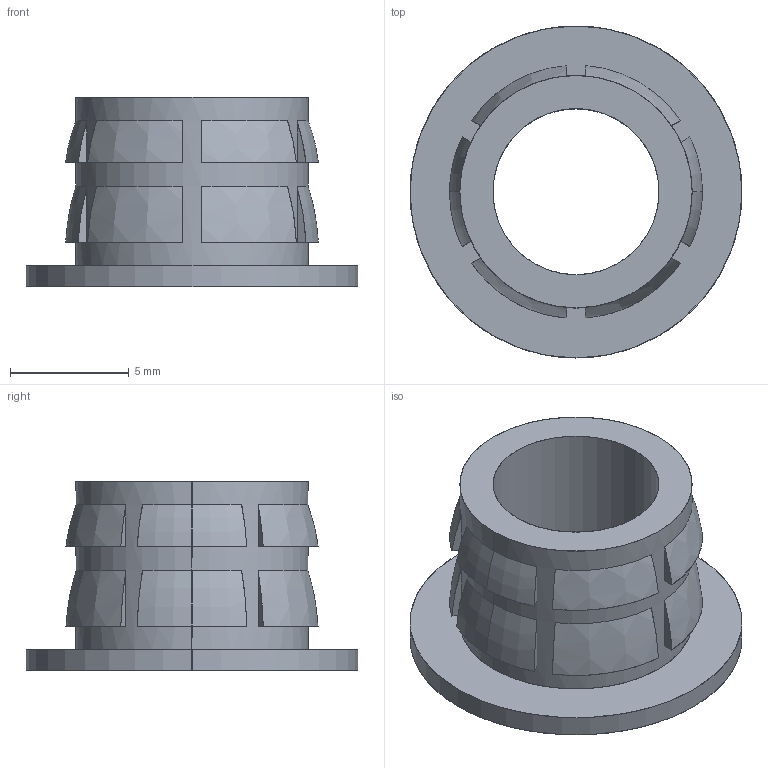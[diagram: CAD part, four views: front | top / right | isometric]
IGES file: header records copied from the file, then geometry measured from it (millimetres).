
Start section: SolidWorks IGES file using analytic representation for surfaces
Global section: file name: G:\thermofab project\INSERT\insert project\INSERT 3D\flanged insert M8 S1.IGS; native system: SolidWorks 2015; preprocessor: SolidWorks 2015; author: Administrator; date: 170809.191838; units: millimetre
Bounding box: 14 x 14 x 8 mm (x, y, z)
Surface area: 699.2 mm2 (no closed solid volume)
Topology: 0 solids, 0 shells, 63 faces, 568 edges, 568 vertices
Faces by surface type: bspline 55, revolution 8
